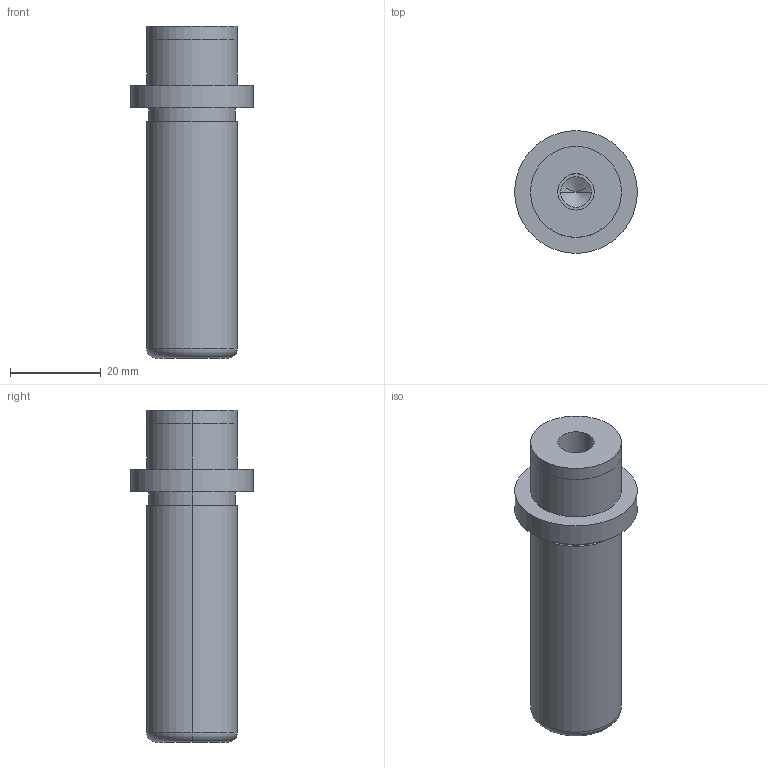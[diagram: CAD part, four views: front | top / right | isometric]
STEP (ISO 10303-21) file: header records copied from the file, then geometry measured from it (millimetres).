
FILE_DESCRIPTION(/* description */ (''),/* implementation_level */ '2;1');
FILE_NAME(/* name */ '3d_sgpw20-60_05286_r00.stp',/* time_stamp */ '2011-01-10T14:11:04+09:00',/* author */ ('MISUMI'),/* organization */ (''),/* preprocessor_version */ 'ST-DEVELOPER v11',/* originating_system */ 'UGS - NX 5.0',/* authorisation */ '');
FILE_SCHEMA (('CONFIG_CONTROL_DESIGN'));
Length unit declared in the file: millimetre
Products named in the file (1): 3d_sgpw20-60_05286_r00
Bounding box: 27 x 27 x 73 mm (x, y, z)
Volume: 22079.8 mm3; surface area: 6839.4 mm2
Topology: 1 solids, 1 shells, 31 faces, 64 edges, 38 vertices
Faces by surface type: cylinder 18, plane 7, cone 4, torus 2
Entity records: 890 total; most frequent: DIRECTION 162, CARTESIAN_POINT 130, ORIENTED_EDGE 120, AXIS2_PLACEMENT_3D 70, EDGE_CURVE 60, EDGE_LOOP 38, CIRCLE 38, VERTEX_POINT 38
